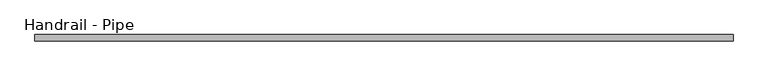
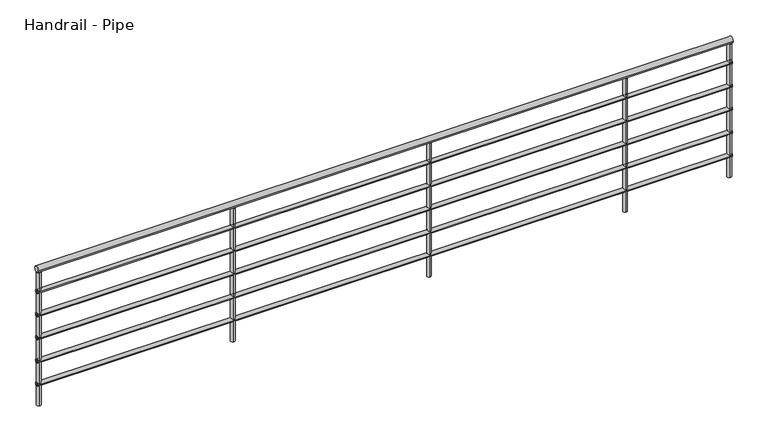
"""IFC4 building model written with IfcOpenShell, lengths in millimetres: railing geometry, Handrail - Pipe."""

from ifc_helpers import new_model, si_unit, point, frame, frame_2d, origin, place, context, project, spatial, circle_curve, trimmed, segment, composite_curve, outline, extrude, source, transform, mapped, element, save


def handrail_pipe_c4519676(model_context):
    return source(origin(), model_context, "Body", "SweptSolid", [
        extrude(outline(composite_curve([segment(trimmed(circle_curve(frame_2d((-6246.6671527, 1047.75)), 19.05), [point((-6265.7171527, 1047.75))], [point((-6227.6171527, 1047.75))], False, "CARTESIAN"), True, "CONTINUOUS"), segment(trimmed(circle_curve(frame_2d((-6246.6671527, 1047.75)), 19.05), [point((-6227.6171527, 1047.75))], [point((-6265.7171527, 1047.75))], False, "CARTESIAN"), True, "CONTINUOUS")], self_intersect=False)), frame((-6381.9786726, 0.0, 0.0), z_axis=(1.0, 0.0, 0.0), x_axis=(0.0, 1.0, 0.0)), (0.0, 0.0, 1.0), 4318.5519904),
        extrude(outline(composite_curve([segment(trimmed(circle_curve(frame_2d((-6246.6671527, 901.7)), 12.7), [point((-6259.3671527, 901.7))], [point((-6233.9671527, 901.7))], False, "CARTESIAN"), True, "CONTINUOUS"), segment(trimmed(circle_curve(frame_2d((-6246.6671527, 901.7)), 12.7), [point((-6233.9671527, 901.7))], [point((-6259.3671527, 901.7))], False, "CARTESIAN"), True, "CONTINUOUS")], self_intersect=False)), frame((-6381.9786726, 0.0, 0.0), z_axis=(1.0, 0.0, 0.0), x_axis=(0.0, 1.0, 0.0)), (0.0, 0.0, 1.0), 4318.5519904),
        extrude(outline(composite_curve([segment(trimmed(circle_curve(frame_2d((-6246.6671527, 749.3)), 12.7), [point((-6259.3671527, 749.3))], [point((-6233.9671527, 749.3))], False, "CARTESIAN"), True, "CONTINUOUS"), segment(trimmed(circle_curve(frame_2d((-6246.6671527, 749.3)), 12.7), [point((-6233.9671527, 749.3))], [point((-6259.3671527, 749.3))], False, "CARTESIAN"), True, "CONTINUOUS")], self_intersect=False)), frame((-6381.9786726, 0.0, 0.0), z_axis=(1.0, 0.0, 0.0), x_axis=(0.0, 1.0, 0.0)), (0.0, 0.0, 1.0), 4318.5519904),
        extrude(outline(composite_curve([segment(trimmed(circle_curve(frame_2d((-6246.6671527, 596.9)), 12.7), [point((-6259.3671527, 596.9))], [point((-6233.9671527, 596.9))], False, "CARTESIAN"), True, "CONTINUOUS"), segment(trimmed(circle_curve(frame_2d((-6246.6671527, 596.9)), 12.7), [point((-6233.9671527, 596.9))], [point((-6259.3671527, 596.9))], False, "CARTESIAN"), True, "CONTINUOUS")], self_intersect=False)), frame((-6381.9786726, 0.0, 0.0), z_axis=(1.0, 0.0, 0.0), x_axis=(0.0, 1.0, 0.0)), (0.0, 0.0, 1.0), 4318.5519904),
        extrude(outline(composite_curve([segment(trimmed(circle_curve(frame_2d((-6246.6671527, 444.5)), 12.7), [point((-6259.3671527, 444.5))], [point((-6233.9671527, 444.5))], False, "CARTESIAN"), True, "CONTINUOUS"), segment(trimmed(circle_curve(frame_2d((-6246.6671527, 444.5)), 12.7), [point((-6233.9671527, 444.5))], [point((-6259.3671527, 444.5))], False, "CARTESIAN"), True, "CONTINUOUS")], self_intersect=False)), frame((-6381.9786726, 0.0, 0.0), z_axis=(1.0, 0.0, 0.0), x_axis=(0.0, 1.0, 0.0)), (0.0, 0.0, 1.0), 4318.5519904),
        extrude(outline(composite_curve([segment(trimmed(circle_curve(frame_2d((-6246.6671527, 292.1)), 12.7), [point((-6259.3671527, 292.1))], [point((-6233.9671527, 292.1))], False, "CARTESIAN"), True, "CONTINUOUS"), segment(trimmed(circle_curve(frame_2d((-6246.6671527, 292.1)), 12.7), [point((-6233.9671527, 292.1))], [point((-6259.3671527, 292.1))], False, "CARTESIAN"), True, "CONTINUOUS")], self_intersect=False)), frame((-6381.9786726, 0.0, 0.0), z_axis=(1.0, 0.0, 0.0), x_axis=(0.0, 1.0, 0.0)), (0.0, 0.0, 1.0), 4318.5519904),
        extrude(outline(composite_curve([segment(trimmed(circle_curve(frame_2d((-2724.3786726, -6246.6671527)), 12.7), [point((-2724.3786726, -6259.3671527))], [point((-2724.3786726, -6233.9671527))], False, "CARTESIAN"), True, "CONTINUOUS"), segment(trimmed(circle_curve(frame_2d((-2724.3786726, -6246.6671527)), 12.7), [point((-2724.3786726, -6233.9671527))], [point((-2724.3786726, -6259.3671527))], False, "CARTESIAN"), True, "CONTINUOUS")], self_intersect=False)), frame((0.0, 0.0, 152.4), z_axis=(0.0, 0.0, 1.0), x_axis=(1.0, 0.0, 0.0)), (0.0, 0.0, 1.0), 876.3),
        extrude(outline(composite_curve([segment(trimmed(circle_curve(frame_2d((-3943.5786726, -6246.6671527)), 12.7), [point((-3943.5786726, -6259.3671527))], [point((-3943.5786726, -6233.9671527))], False, "CARTESIAN"), True, "CONTINUOUS"), segment(trimmed(circle_curve(frame_2d((-3943.5786726, -6246.6671527)), 12.7), [point((-3943.5786726, -6233.9671527))], [point((-3943.5786726, -6259.3671527))], False, "CARTESIAN"), True, "CONTINUOUS")], self_intersect=False)), frame((0.0, 0.0, 152.4), z_axis=(0.0, 0.0, 1.0), x_axis=(1.0, 0.0, 0.0)), (0.0, 0.0, 1.0), 876.3),
        extrude(outline(composite_curve([segment(trimmed(circle_curve(frame_2d((-5162.7786726, -6246.6671527)), 12.7), [point((-5162.7786726, -6259.3671527))], [point((-5162.7786726, -6233.9671527))], False, "CARTESIAN"), True, "CONTINUOUS"), segment(trimmed(circle_curve(frame_2d((-5162.7786726, -6246.6671527)), 12.7), [point((-5162.7786726, -6233.9671527))], [point((-5162.7786726, -6259.3671527))], False, "CARTESIAN"), True, "CONTINUOUS")], self_intersect=False)), frame((0.0, 0.0, 152.4), z_axis=(0.0, 0.0, 1.0), x_axis=(1.0, 0.0, 0.0)), (0.0, 0.0, 1.0), 876.3),
        extrude(outline(composite_curve([segment(trimmed(circle_curve(frame_2d((-2076.1266822, -6246.6671527)), 12.7), [point((-2076.1266822, -6259.3671527))], [point((-2076.1266822, -6233.9671527))], False, "CARTESIAN"), True, "CONTINUOUS"), segment(trimmed(circle_curve(frame_2d((-2076.1266822, -6246.6671527)), 12.7), [point((-2076.1266822, -6233.9671527))], [point((-2076.1266822, -6259.3671527))], False, "CARTESIAN"), True, "CONTINUOUS")], self_intersect=False)), frame((0.0, 0.0, 152.4), z_axis=(0.0, 0.0, 1.0), x_axis=(1.0, 0.0, 0.0)), (0.0, 0.0, 1.0), 876.3),
        extrude(outline(composite_curve([segment(trimmed(circle_curve(frame_2d((-6369.2786726, -6246.6671527)), 12.7), [point((-6369.2786726, -6259.3671527))], [point((-6369.2786726, -6233.9671527))], False, "CARTESIAN"), True, "CONTINUOUS"), segment(trimmed(circle_curve(frame_2d((-6369.2786726, -6246.6671527)), 12.7), [point((-6369.2786726, -6233.9671527))], [point((-6369.2786726, -6259.3671527))], False, "CARTESIAN"), True, "CONTINUOUS")], self_intersect=False)), frame((0.0, 0.0, 152.4), z_axis=(0.0, 0.0, 1.0), x_axis=(1.0, 0.0, 0.0)), (0.0, 0.0, 1.0), 876.3),
    ])


if __name__ == "__main__":
    model = new_model("IFC4")
    model_context = context("Model", 3, world=origin())
    ifc_project = project(units=[si_unit("LENGTHUNIT", "METRE", prefix="MILLI")], contexts=[model_context])
    site = spatial("IfcSite", under=ifc_project)
    building = spatial("IfcBuilding", under=site)
    placement = place(None, origin())
    handrail_pipe_shape = handrail_pipe_c4519676(model_context)
    element("IfcRailing", 1, ObjectType="Handrail - Pipe", at=placement, inside=building, context=model_context, shape_type="MappedRepresentation", body=[
        mapped(handrail_pipe_shape, transform((0.0, 0.0, 0.0), x_axis=(1.0, 0.0, 0.0), y_axis=(0.0, 1.0, 0.0), z_axis=(0.0, 0.0, 1.0))),
    ])
    save(model, "model.ifc")
